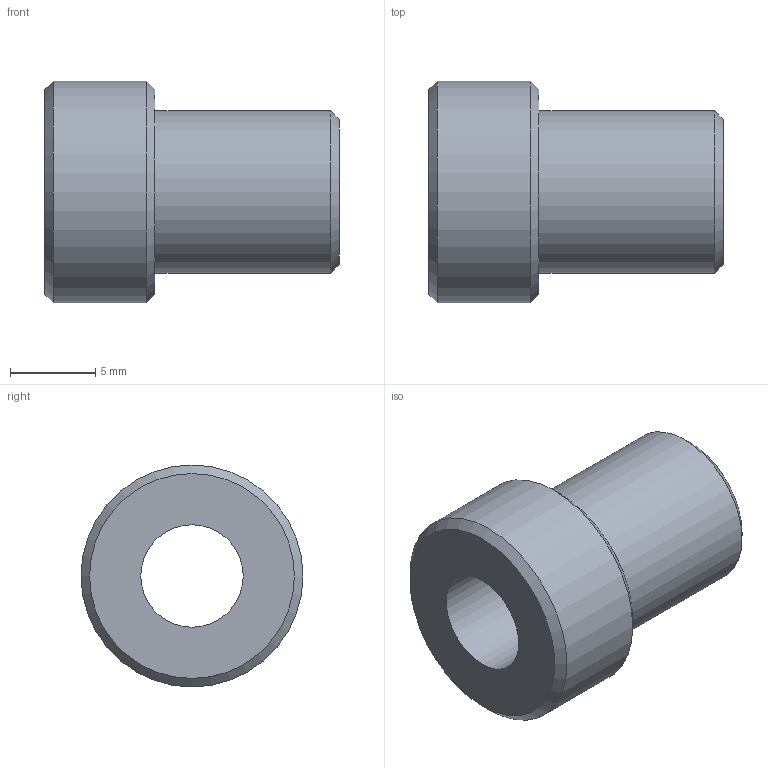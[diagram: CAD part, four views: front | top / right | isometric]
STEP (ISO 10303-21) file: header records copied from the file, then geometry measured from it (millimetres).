
FILE_DESCRIPTION((''),'2;1');
FILE_NAME('C:\Documents and Settings\土屋\My Documents\土屋移動用フォルダ\製品 (図面)\カタログ用3D\リニアガイド\VW\SB\SB2.stp','2015-02-21T14:13:21',('y'),(''),'Autodesk Inventor 11','Autodesk Inventor 11','');
FILE_SCHEMA(('AUTOMOTIVE_DESIGN { 1 0 10303 214 1 1 1 1 }'));
Length unit declared in the file: millimetre
Products named in the file (1): SB2
Bounding box: 17.24 x 13 x 13 mm (x, y, z)
Volume: 1123.2 mm3; surface area: 1086.4 mm2
Topology: 1 solids, 1 shells, 9 faces, 15 edges, 9 vertices
Faces by surface type: cone 3, plane 3, cylinder 3
Full cylindrical faces by diameter (mm): 6 x1, 9.52 x1, 13 x1
Entity records: 211 total; most frequent: DIRECTION 38, CARTESIAN_POINT 28, AXIS2_PLACEMENT_3D 19, ORIENTED_EDGE 18, EDGE_LOOP 18, VERTEX_POINT 9, CIRCLE 9, EDGE_CURVE 9
